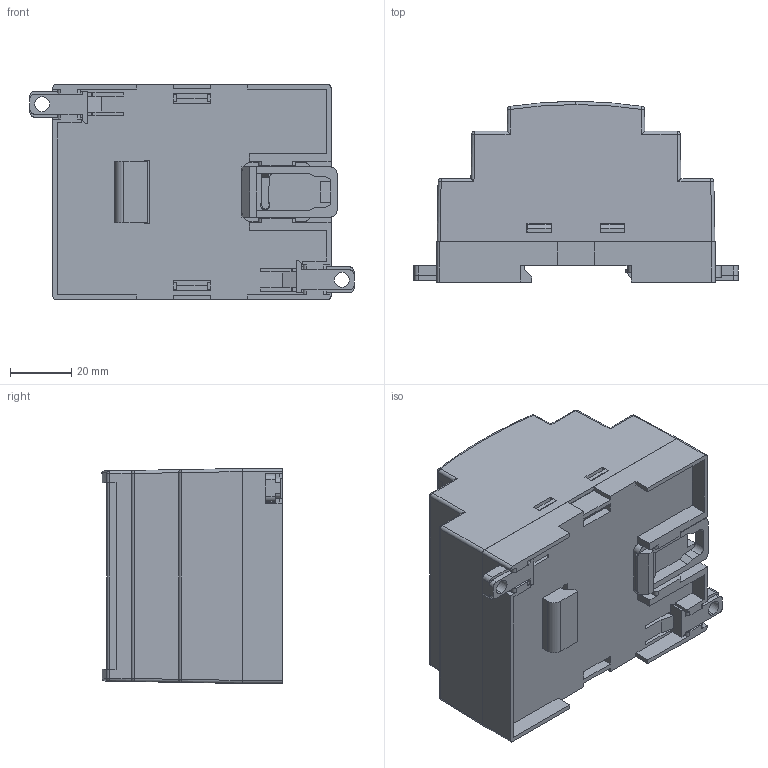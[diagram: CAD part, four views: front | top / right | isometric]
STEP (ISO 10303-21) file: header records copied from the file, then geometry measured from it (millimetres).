
FILE_DESCRIPTION (( 'STEP AP203' ), '1' );
FILE_NAME ('PT204-A.STEP', '2015-06-15T09:01:23', ( 'admin' ), ( 'Hewlett-Packard Company' ), 'SwSTEP 2.0', 'SolidWorks 2014', '' );
FILE_SCHEMA (( 'CONFIG_CONTROL_DESIGN' ));
Length unit declared in the file: millimetre
Products named in the file (6): PT204-A
Assembly tree (6 placements, depth 2):
  PT204-A
    PT204-A
    PT204-A
    PT204-A  x2
    PT204-A
    PT204-A
Bounding box: 105.52 x 58.8 x 70.2 mm (x, y, z)
Volume: 57200.9 mm3; surface area: 63837.5 mm2
Topology: 6 solids, 6 shells, 525 faces, 1487 edges, 966 vertices
Faces by surface type: plane 385, cylinder 125, sphere 12, bspline 3
Entity records: 16811 total; most frequent: CARTESIAN_POINT 2979, ORIENTED_EDGE 2838, DIRECTION 2628, EDGE_CURVE 1419, VECTOR 1170, LINE 1170, VERTEX_POINT 926, AXIS2_PLACEMENT_3D 729
